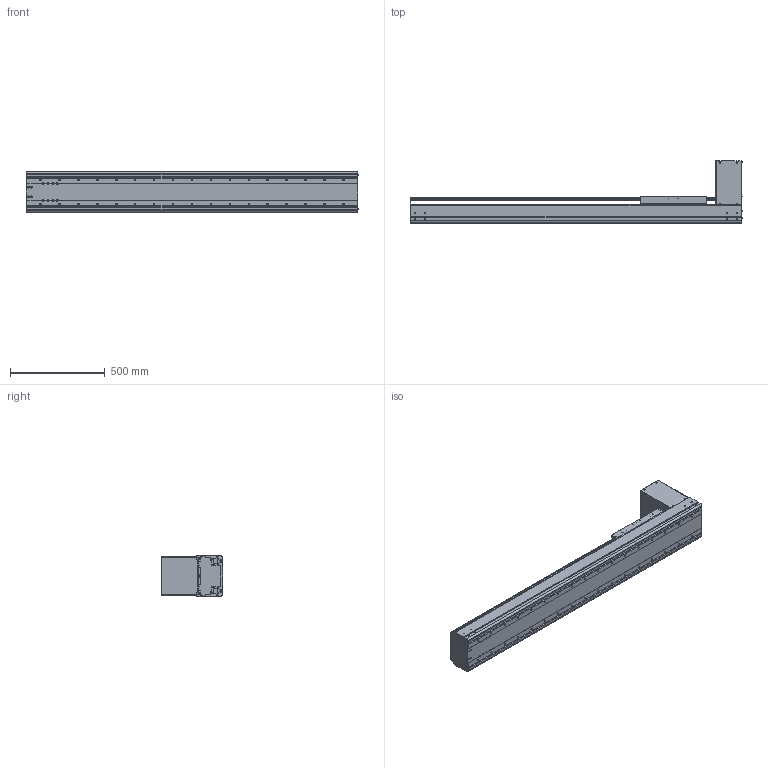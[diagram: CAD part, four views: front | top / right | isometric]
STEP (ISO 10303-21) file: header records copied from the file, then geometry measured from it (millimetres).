
FILE_DESCRIPTION((''),'2;1');
FILE_NAME('BE60J-BT-L19N-B5_IGS_PRT','2017-06-18T',(' '),(''),'PRO/ENGINEER BY PARAMETRIC TECHNOLOGY CORPORATION, 2015030','PRO/ENGINEER BY PARAMETRIC TECHNOLOGY CORPORATION, 2015030','');
FILE_SCHEMA(('CONFIG_CONTROL_DESIGN'));
Products named in the file (1): BE60J-BT-L19N-B5_IGS_PRT
Bounding box: 1754.4 x 327.5 x 214 mm (x, y, z)
Volume: 12846109.3 mm3; surface area: 4001207.4 mm2
Topology: 1 solids, 247 shells, 2136 faces, 5957 edges, 3968 vertices
Faces by surface type: cylinder 1020, plane 824, cone 196, torus 48, sphere 48
Entity records: 70812 total; most frequent: CARTESIAN_POINT 15962, DIRECTION 11517, ORIENTED_EDGE 10772, EDGE_CURVE 5820, AXIS2_PLACEMENT_3D 4331, VERTEX_POINT 3964, VECTOR 2855, LINE 2855
